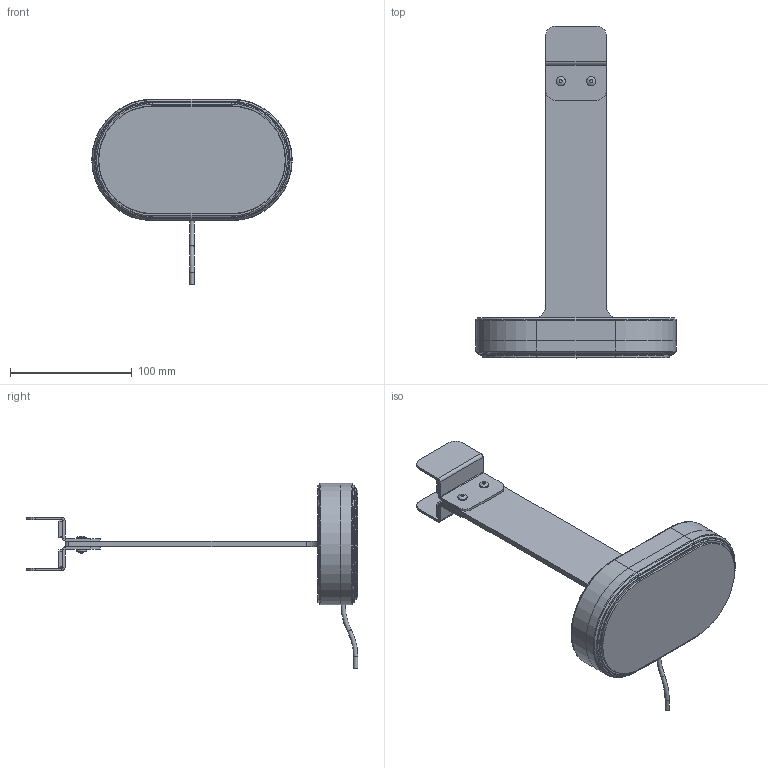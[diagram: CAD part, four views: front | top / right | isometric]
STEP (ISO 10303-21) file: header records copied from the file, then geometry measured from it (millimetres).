
FILE_DESCRIPTION (( 'STEP AP214' ), '1' );
FILE_NAME ('MONO_038-a300_02.STEP', '2026-03-17T12:35:03', ( '' ), ( '' ), 'SwSTEP 2.0', 'SolidWorks 2024', '' );
FILE_SCHEMA (( 'AUTOMOTIVE_DESIGN' ));
Length unit declared in the file: millimetre
Products named in the file (24): MONO_038-a300_02; MONO_038-a310; MONO_038-a302; M4 x -2 Self Clinch Nut (TR00030019-100)_M4X-2; LED Strip 1; MONO_038-p321; M4 Threaded Wood Insert; MONO_038-p303; MONO_038-a306; M4 Zinc Pan Pozi (PZ2) HI-PLAS Plastite Screw; MONO_038-p322; M4 Socket Cap Screw x 20mm_20mm; MONO_038-p315; Nut_M4; MONO_038-p309; MONO_038-a311; MONO_038-p308; MONO_038-a307; MONO_038-p301; M4 BUT Head Screw_20mm; MONO_038-a320; MONO_038-p304; M4 Button Head Screw x 12mm_12mm; MONO_038-p316
Assembly tree (40 placements, depth 5):
  MONO_038-a300_02
    MONO_038-p301
    MONO_038-p304  x2
    MONO_038-a302
      MONO_038-p303
      M4 x -2 Self Clinch Nut (TR00030019-100)_M4X-2  x2
    MONO_038-a306
      MONO_038-a307
        MONO_038-p308
        M4 Threaded Wood Insert  x4
      MONO_038-a310
        MONO_038-a311
          MONO_038-p315
          MONO_038-p316
          LED Strip 1
          M4 Zinc Pan Pozi (PZ2) HI-PLAS Plastite Screw  x2
        MONO_038-a320
          MONO_038-p321
          MONO_038-p322
          Nut_M4  x2
          M4 BUT Head Screw_20mm  x2
        M4 Zinc Pan Pozi (PZ2) HI-PLAS Plastite Screw  x5
      MONO_038-p309
      M4 Socket Cap Screw x 20mm_20mm  x4
    M4 Button Head Screw x 12mm_12mm  x2
Bounding box: 165 x 273 x 152.81 mm (x, y, z)
Volume: 398986.3 mm3; surface area: 203390.9 mm2
Topology: 34 solids, 34 shells, 1529 faces, 3749 edges, 2341 vertices
Faces by surface type: plane 808, cylinder 488, cone 93, torus 81, bspline 34, sphere 25
Full cylindrical faces by diameter (mm): 3.3 x9, 3.5 x4, 4 x21, 4.2 x4, 4.5 x10, 4.6 x7, 4.95 x2, 5.38 x2, 5.5 x6, 7 x4, 7.6 x4, 7.9 x2, 8.2 x4, 8.5 x4, 9.3 x2, 12.5 x1
Entity records: 34184 total; most frequent: CARTESIAN_POINT 6954, DIRECTION 5790, ORIENTED_EDGE 5254, EDGE_CURVE 2627, AXIS2_PLACEMENT_3D 2123, VERTEX_POINT 1689, LINE 1544, VECTOR 1544
